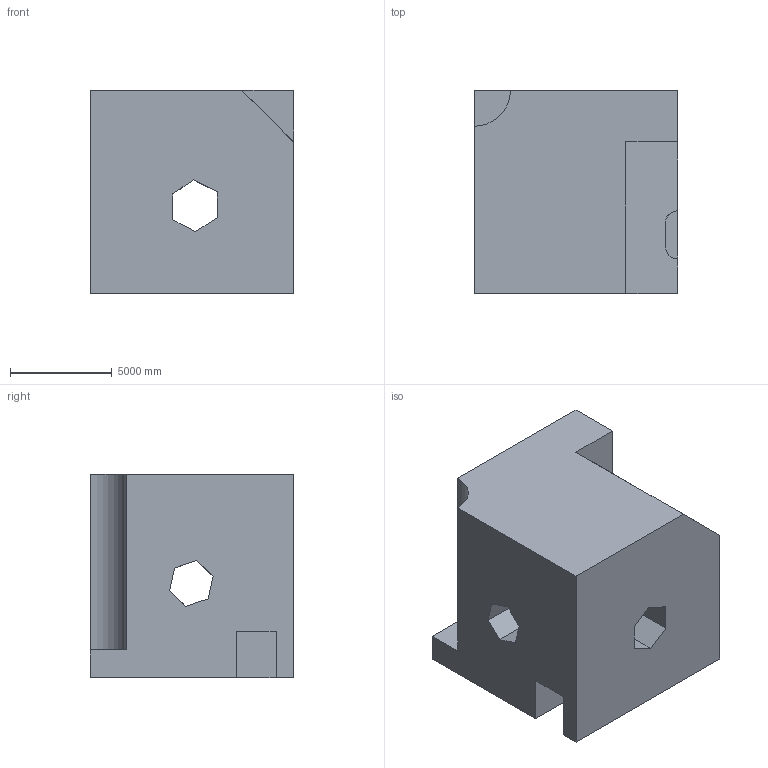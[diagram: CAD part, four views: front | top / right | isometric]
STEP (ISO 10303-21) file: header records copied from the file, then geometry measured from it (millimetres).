
FILE_DESCRIPTION (( 'STEP AP203' ), '1' );
FILE_NAME ('1623.STEP', '2022-08-19T11:07:49', ( 'user' ), ( '' ), 'SwSTEP 2.0', 'SolidWorks 2021', '' );
FILE_SCHEMA (( 'CONFIG_CONTROL_DESIGN' ));
Length unit declared in the file: centimetre
Products named in the file (1): 1623
Bounding box: 10000 x 10000 x 10000 mm (x, y, z)
Volume: 839788971090.7 mm3; surface area: 738496524.7 mm2
Topology: 1 solids, 1 shells, 42 faces, 129 edges, 86 vertices
Faces by surface type: plane 39, cylinder 3
Entity records: 1506 total; most frequent: CARTESIAN_POINT 270, ORIENTED_EDGE 258, DIRECTION 215, EDGE_CURVE 129, VECTOR 121, LINE 121, VERTEX_POINT 86, AXIS2_PLACEMENT_3D 47
